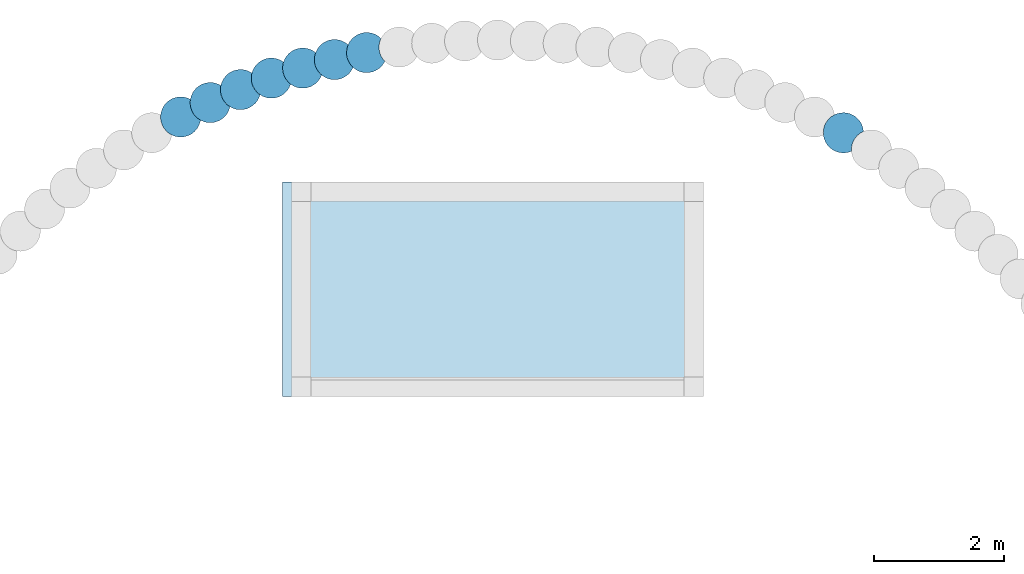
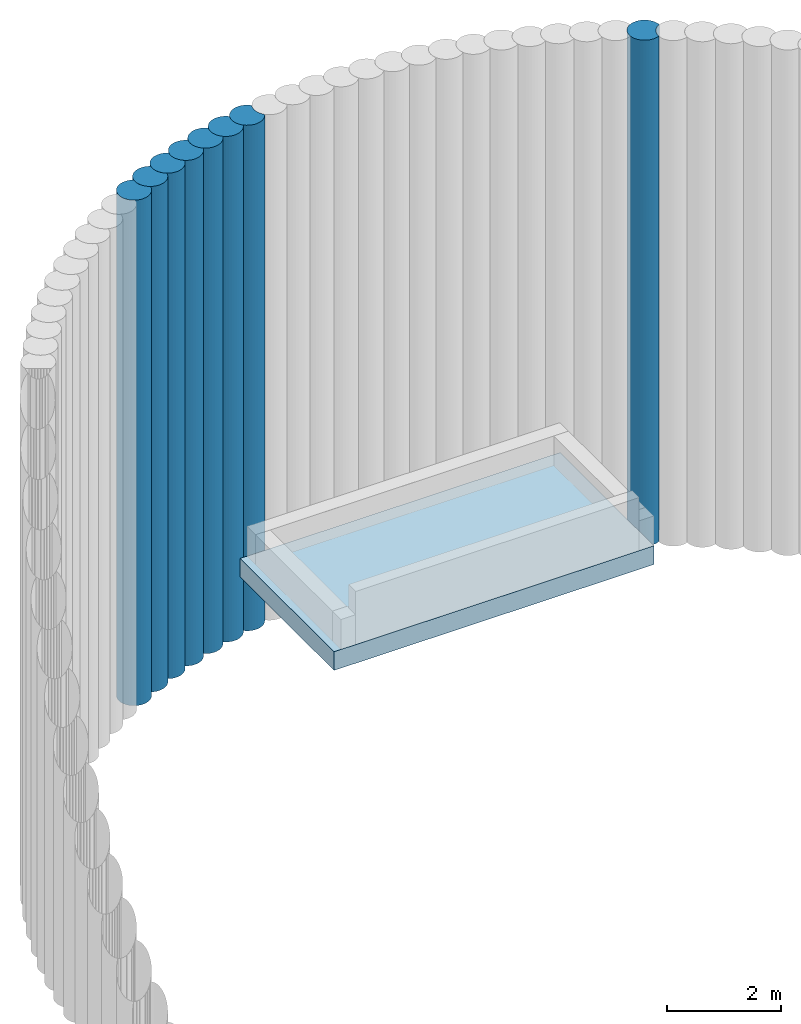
# One storey, part 12 of 16: 9 slabs.
"""IFC2X3 building model written with IfcOpenShell, lengths in centimetres."""

from ifc_helpers import new_model, entity, si_unit, converted_unit, derived_unit, direction, frame, frame_2d, origin, place, context, subcontext, project, spatial, polyline, circle_curve, parameter, trimmed, segment, composite_curve, rectangle, outline, extrude, material, layer, layer_set, layer_usage, element, save


model = new_model("IFC2X3")

# Units and contexts
model_context = context("Model", 3, precision=0.001, world=origin(), true_north=direction((6.12303176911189e-17, 1.0)))
body_context = subcontext(model_context, "Body", "Model", "MODEL_VIEW")
ifc_project = project(units=[si_unit("LENGTHUNIT", "METRE", prefix="CENTI"), si_unit("AREAUNIT", "SQUARE_METRE"), si_unit("VOLUMEUNIT", "CUBIC_METRE"), converted_unit("PLANEANGLEUNIT", "DEGREE", entity("IfcRatioMeasure", 0.0174532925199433), si_unit("PLANEANGLEUNIT", "RADIAN"), dimensions=[0, 0, 0, 0, 0, 0, 0]), si_unit("MASSUNIT", "GRAM", prefix="KILO"), derived_unit("MASSDENSITYUNIT", [(si_unit("MASSUNIT", "GRAM", prefix="KILO"), 1), (si_unit("LENGTHUNIT", "METRE"), -3)]), si_unit("TIMEUNIT", "SECOND"), si_unit("FREQUENCYUNIT", "HERTZ"), si_unit("THERMODYNAMICTEMPERATUREUNIT", "DEGREE_CELSIUS"), derived_unit("THERMALTRANSMITTANCEUNIT", [(si_unit("MASSUNIT", "GRAM", prefix="KILO"), 1), (si_unit("THERMODYNAMICTEMPERATUREUNIT", "KELVIN"), -1), (si_unit("TIMEUNIT", "SECOND"), -3)]), derived_unit("VOLUMETRICFLOWRATEUNIT", [(si_unit("LENGTHUNIT", "METRE"), 3), (si_unit("TIMEUNIT", "SECOND"), -1)]), si_unit("ELECTRICCURRENTUNIT", "AMPERE"), si_unit("ELECTRICVOLTAGEUNIT", "VOLT"), si_unit("POWERUNIT", "WATT"), si_unit("FORCEUNIT", "NEWTON", prefix="KILO"), si_unit("ILLUMINANCEUNIT", "LUX"), si_unit("LUMINOUSFLUXUNIT", "LUMEN"), si_unit("LUMINOUSINTENSITYUNIT", "CANDELA"), derived_unit("USERDEFINED", [(si_unit("MASSUNIT", "GRAM", prefix="KILO"), -1), (si_unit("LENGTHUNIT", "METRE"), -2), (si_unit("TIMEUNIT", "SECOND"), 3), (si_unit("LUMINOUSFLUXUNIT", "LUMEN"), 1)]), derived_unit("LINEARVELOCITYUNIT", [(si_unit("LENGTHUNIT", "METRE"), 1), (si_unit("TIMEUNIT", "SECOND"), -1)]), si_unit("PRESSUREUNIT", "PASCAL"), derived_unit("USERDEFINED", [(si_unit("LENGTHUNIT", "METRE"), -2), (si_unit("MASSUNIT", "GRAM", prefix="KILO"), 1), (si_unit("TIMEUNIT", "SECOND"), -2)])], contexts=[model_context])

# Site, building, storey
site_placement = place(None, origin())
site = spatial("IfcSite", under=ifc_project, at=site_placement, Name="Default", CompositionType="ELEMENT")
building_placement = place(site_placement, origin())
building = spatial("IfcBuilding", under=site, at=building_placement, CompositionType="ELEMENT")
storey_placement = place(building_placement, frame((0.0, 0.0, -984.0)))
storey = spatial("IfcBuildingStorey", under=building, at=storey_placement, Name="Niveau Fond de fosse", CompositionType="ELEMENT", Elevation=-984.000000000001)

# Slabs
ifc_material_1 = material(Name="Maçonnerie - Béton coulé sur place")
slab_1_placement = place(storey_placement, origin())
element("IfcSlab", 1, at=slab_1_placement, inside=storey, material=ifc_material_1, Name="Pieu béton - JBTP:600mm 2", ObjectType="Pieu béton - JBTP:600mm 2", PredefinedType="BASESLAB", context=body_context, shape_type="SweptSolid", body=[
    extrude(outline(composite_curve([segment(trimmed(circle_curve(frame_2d((1.18354648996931, -14.731866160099), x_axis=(1.0, 0.0)), 30.9999999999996), [parameter(180.0)], [parameter(207.444291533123)], True, "PARAMETER"), True, "CONTINUOUS"), segment(trimmed(circle_curve(frame_2d((-22.223663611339, -59.7464676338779), x_axis=(0.998867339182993, -0.0475819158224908)), 30.9999999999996), [parameter(30.1715642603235)], [parameter(100.334884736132)], True, "PARAMETER"), False, "CONTINUOUS"), segment(trimmed(circle_curve(frame_2d((1.18354648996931, -14.731866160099), x_axis=(1.0, 0.0)), 30.9999999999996), [parameter(277.607612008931)], [parameter(4.07110999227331e-13)], True, "PARAMETER"), True, "CONTINUOUS"), segment(polyline([(32.1835464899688, -14.731866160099), (31.7068413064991, -9.31628922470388)]), True, "CONTINUOUS"), segment(polyline([(31.7068413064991, -9.31628922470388), (30.2921459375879, -4.06934121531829)]), True, "CONTINUOUS"), segment(polyline([(30.2921459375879, -4.06934121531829), (27.9815446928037, 0.850722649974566)]), True, "CONTINUOUS"), segment(polyline([(27.9815446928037, 0.850722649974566), (24.8625540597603, 5.27574740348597)]), True, "CONTINUOUS"), segment(polyline([(24.8625540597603, 5.27574740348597), (21.0196407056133, 9.09100869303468)]), True, "CONTINUOUS"), segment(polyline([(21.0196407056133, 9.09100869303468), (16.5713553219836, 12.1793831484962)]), True, "CONTINUOUS"), segment(polyline([(16.5713553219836, 12.1793831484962), (11.6531207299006, 14.4466878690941)]), True, "CONTINUOUS"), segment(polyline([(11.6531207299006, 14.4466878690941), (6.41465294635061, 15.8235838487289)]), True, "CONTINUOUS"), segment(polyline([(6.41465294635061, 15.8235838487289), (1.01547753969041, 16.2676782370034)]), True, "CONTINUOUS"), segment(polyline([(1.01547753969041, 16.2676782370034), (-4.38028118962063, 15.7646561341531)]), True, "CONTINUOUS"), segment(polyline([(-4.38028118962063, 15.7646561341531), (-9.56967916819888, 14.3433490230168)]), True, "CONTINUOUS"), segment(polyline([(-9.56967916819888, 14.3433490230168), (-14.4353628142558, 12.0459170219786)]), True, "CONTINUOUS"), segment(polyline([(-14.4353628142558, 12.0459170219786), (-18.8300295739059, 8.94210209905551)]), True, "CONTINUOUS"), segment(polyline([(-18.8300295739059, 8.94210209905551), (-22.6217091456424, 5.12536940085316)]), True, "CONTINUOUS"), segment(polyline([(-22.6217091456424, 5.12536940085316), (-25.6964633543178, 0.710448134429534)]), True, "CONTINUOUS"), segment(polyline([(-25.6964633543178, 0.710448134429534), (-27.9617477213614, -4.17005640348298)]), True, "CONTINUOUS"), segment(polyline([(-27.9617477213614, -4.17005640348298), (-29.3490361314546, -9.36890070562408)]), True, "CONTINUOUS"), segment(polyline([(-29.3490361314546, -9.36890070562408), (-29.8164535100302, -14.7318661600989)]), True, "CONTINUOUS")], self_intersect=False)), frame((518.221782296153, 923.001581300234, -300.0), z_axis=(0.0, 0.0, 1.0), x_axis=(0.0678339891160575, 0.997696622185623, 0.0)), (0.0, 0.0, 1.0), 1084.0),
])
slab_2_placement = place(storey_placement, origin())
element("IfcSlab", 2, at=slab_2_placement, inside=storey, material=ifc_material_1, Name="Pieu béton - JBTP:600mm 2", ObjectType="Pieu béton - JBTP:600mm 2", PredefinedType="BASESLAB", context=body_context, shape_type="SweptSolid", body=[
    extrude(outline(composite_curve([segment(trimmed(circle_curve(frame_2d((1.18354648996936, -14.7318661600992), x_axis=(1.0, 0.0)), 30.9999999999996), [parameter(180.0)], [parameter(207.444291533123)], True, "PARAMETER"), True, "CONTINUOUS"), segment(trimmed(circle_curve(frame_2d((-22.2236636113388, -59.746467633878), x_axis=(0.998867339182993, -0.0475819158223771)), 30.9999999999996), [parameter(30.1715642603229)], [parameter(100.334884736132)], True, "PARAMETER"), False, "CONTINUOUS"), segment(trimmed(circle_curve(frame_2d((1.18354648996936, -14.7318661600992), x_axis=(1.0, 0.0)), 30.9999999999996), [parameter(277.607612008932)], [parameter(4.07110999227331e-13)], True, "PARAMETER"), True, "CONTINUOUS"), segment(polyline([(32.183546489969, -14.7318661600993), (31.7068413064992, -9.31628922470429)]), True, "CONTINUOUS"), segment(polyline([(31.7068413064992, -9.31628922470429), (30.2921459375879, -4.0693412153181)]), True, "CONTINUOUS"), segment(polyline([(30.2921459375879, -4.0693412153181), (27.9815446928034, 0.850722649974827)]), True, "CONTINUOUS"), segment(polyline([(27.9815446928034, 0.850722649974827), (24.8625540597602, 5.27574740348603)]), True, "CONTINUOUS"), segment(polyline([(24.8625540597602, 5.27574740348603), (21.0196407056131, 9.09100869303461)]), True, "CONTINUOUS"), segment(polyline([(21.0196407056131, 9.09100869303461), (16.5713553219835, 12.1793831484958)]), True, "CONTINUOUS"), segment(polyline([(16.5713553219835, 12.1793831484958), (11.6531207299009, 14.4466878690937)]), True, "CONTINUOUS"), segment(polyline([(11.6531207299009, 14.4466878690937), (6.41465294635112, 15.8235838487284)]), True, "CONTINUOUS"), segment(polyline([(6.41465294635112, 15.8235838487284), (1.01547753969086, 16.2676782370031)]), True, "CONTINUOUS"), segment(polyline([(1.01547753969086, 16.2676782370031), (-4.38028118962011, 15.764656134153)]), True, "CONTINUOUS"), segment(polyline([(-4.38028118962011, 15.764656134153), (-9.56967916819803, 14.3433490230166)]), True, "CONTINUOUS"), segment(polyline([(-9.56967916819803, 14.3433490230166), (-14.4353628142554, 12.0459170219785)]), True, "CONTINUOUS"), segment(polyline([(-14.4353628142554, 12.0459170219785), (-18.8300295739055, 8.94210209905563)]), True, "CONTINUOUS"), segment(polyline([(-18.8300295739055, 8.94210209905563), (-22.6217091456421, 5.12536940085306)]), True, "CONTINUOUS"), segment(polyline([(-22.6217091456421, 5.12536940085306), (-25.6964633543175, 0.710448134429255)]), True, "CONTINUOUS"), segment(polyline([(-25.6964633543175, 0.710448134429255), (-27.9617477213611, -4.1700564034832)]), True, "CONTINUOUS"), segment(polyline([(-27.9617477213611, -4.1700564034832), (-29.3490361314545, -9.36890070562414)]), True, "CONTINUOUS"), segment(polyline([(-29.3490361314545, -9.36890070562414), (-29.8164535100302, -14.7318661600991)]), True, "CONTINUOUS")], self_intersect=False)), frame((-212.791601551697, 1036.92114890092, -300.0), z_axis=(0.0, 0.0, 1.0), x_axis=(-0.602086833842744, 0.798430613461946, 0.0)), (0.0, 0.0, 1.0), 1084.0),
])
slab_3_placement = place(storey_placement, origin())
element("IfcSlab", 3, at=slab_3_placement, inside=storey, material=ifc_material_1, Name="Pieu béton - JBTP:600mm 2", ObjectType="Pieu béton - JBTP:600mm 2", PredefinedType="BASESLAB", context=body_context, shape_type="SweptSolid", body=[
    extrude(outline(composite_curve([segment(trimmed(circle_curve(frame_2d((1.18354648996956, -14.7318661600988), x_axis=(1.0, 0.0)), 30.9999999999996), [parameter(180.0)], [parameter(207.444291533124)], True, "PARAMETER"), True, "CONTINUOUS"), segment(trimmed(circle_curve(frame_2d((-22.2236636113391, -59.7464676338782), x_axis=(0.998867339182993, -0.047581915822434)), 30.9999999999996), [parameter(30.1715642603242)], [parameter(100.334884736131)], True, "PARAMETER"), False, "CONTINUOUS"), segment(trimmed(circle_curve(frame_2d((1.18354648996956, -14.7318661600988), x_axis=(1.0, 0.0)), 30.9999999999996), [parameter(277.60761200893)], [parameter(4.07110999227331e-13)], True, "PARAMETER"), True, "CONTINUOUS"), segment(polyline([(32.1835464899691, -14.7318661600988), (31.7068413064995, -9.31628922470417)]), True, "CONTINUOUS"), segment(polyline([(31.7068413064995, -9.31628922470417), (30.2921459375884, -4.06934121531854)]), True, "CONTINUOUS"), segment(polyline([(30.2921459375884, -4.06934121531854), (27.9815446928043, 0.850722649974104)]), True, "CONTINUOUS"), segment(polyline([(27.9815446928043, 0.850722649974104), (24.8625540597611, 5.27574740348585)]), True, "CONTINUOUS"), segment(polyline([(24.8625540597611, 5.27574740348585), (21.0196407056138, 9.09100869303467)]), True, "CONTINUOUS"), segment(polyline([(21.0196407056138, 9.09100869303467), (16.5713553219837, 12.1793831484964)]), True, "CONTINUOUS"), segment(polyline([(16.5713553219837, 12.1793831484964), (11.6531207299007, 14.4466878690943)]), True, "CONTINUOUS"), segment(polyline([(11.6531207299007, 14.4466878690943), (6.41465294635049, 15.8235838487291)]), True, "CONTINUOUS"), segment(polyline([(6.41465294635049, 15.8235838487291), (1.01547753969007, 16.2676782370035)]), True, "CONTINUOUS"), segment(polyline([(1.01547753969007, 16.2676782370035), (-4.38028118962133, 15.7646561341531)]), True, "CONTINUOUS"), segment(polyline([(-4.38028118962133, 15.7646561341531), (-9.56967916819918, 14.3433490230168)]), True, "CONTINUOUS"), segment(polyline([(-9.56967916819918, 14.3433490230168), (-14.4353628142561, 12.0459170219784)]), True, "CONTINUOUS"), segment(polyline([(-14.4353628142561, 12.0459170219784), (-18.830029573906, 8.94210209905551)]), True, "CONTINUOUS"), segment(polyline([(-18.830029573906, 8.94210209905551), (-22.6217091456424, 5.12536940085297)]), True, "CONTINUOUS"), segment(polyline([(-22.6217091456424, 5.12536940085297), (-25.6964633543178, 0.710448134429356)]), True, "CONTINUOUS"), segment(polyline([(-25.6964633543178, 0.710448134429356), (-27.9617477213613, -4.17005640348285)]), True, "CONTINUOUS"), segment(polyline([(-27.9617477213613, -4.17005640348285), (-29.3490361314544, -9.36890070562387)]), True, "CONTINUOUS"), segment(polyline([(-29.3490361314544, -9.36890070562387), (-29.81645351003, -14.7318661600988)]), True, "CONTINUOUS")], self_intersect=False)), frame((-261.889275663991, 1025.62163687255, -300.0), z_axis=(0.0, 0.0, 1.0), x_axis=(-0.63939573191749, 0.768877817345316, 0.0)), (0.0, 0.0, 1.0), 1084.0),
])
slab_4_placement = place(storey_placement, origin())
element("IfcSlab", 4, at=slab_4_placement, inside=storey, material=ifc_material_1, Name="Pieu béton - JBTP:600mm 2", ObjectType="Pieu béton - JBTP:600mm 2", PredefinedType="BASESLAB", context=body_context, shape_type="SweptSolid", body=[
    extrude(outline(composite_curve([segment(trimmed(circle_curve(frame_2d((1.18354648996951, -14.7318661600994), x_axis=(1.0, 0.0)), 30.9999999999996), [parameter(180.0)], [parameter(207.444291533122)], True, "PARAMETER"), True, "CONTINUOUS"), segment(trimmed(circle_curve(frame_2d((-22.2236636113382, -59.7464676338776), x_axis=(0.998867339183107, -0.047581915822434)), 30.9999999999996), [parameter(30.1715642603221)], [parameter(100.334884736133)], True, "PARAMETER"), False, "CONTINUOUS"), segment(trimmed(circle_curve(frame_2d((1.18354648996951, -14.7318661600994), x_axis=(1.0, 0.0)), 30.9999999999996), [parameter(277.607612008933)], [parameter(4.07110999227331e-13)], True, "PARAMETER"), True, "CONTINUOUS"), segment(polyline([(32.183546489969, -14.7318661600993), (31.7068413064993, -9.31628922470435)]), True, "CONTINUOUS"), segment(polyline([(31.7068413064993, -9.31628922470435), (30.292145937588, -4.06934121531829)]), True, "CONTINUOUS"), segment(polyline([(30.292145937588, -4.06934121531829), (27.9815446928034, 0.85072264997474)]), True, "CONTINUOUS"), segment(polyline([(27.9815446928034, 0.85072264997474), (24.8625540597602, 5.275747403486)]), True, "CONTINUOUS"), segment(polyline([(24.8625540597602, 5.275747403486), (21.0196407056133, 9.09100869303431)]), True, "CONTINUOUS"), segment(polyline([(21.0196407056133, 9.09100869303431), (16.5713553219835, 12.1793831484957)]), True, "CONTINUOUS"), segment(polyline([(16.5713553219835, 12.1793831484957), (11.653120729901, 14.4466878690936)]), True, "CONTINUOUS"), segment(polyline([(11.653120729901, 14.4466878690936), (6.41465294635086, 15.8235838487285)]), True, "CONTINUOUS"), segment(polyline([(6.41465294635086, 15.8235838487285), (1.01547753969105, 16.267678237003)]), True, "CONTINUOUS"), segment(polyline([(1.01547753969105, 16.267678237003), (-4.38028118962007, 15.7646561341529)]), True, "CONTINUOUS"), segment(polyline([(-4.38028118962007, 15.7646561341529), (-9.56967916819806, 14.3433490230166)]), True, "CONTINUOUS"), segment(polyline([(-9.56967916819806, 14.3433490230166), (-14.4353628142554, 12.0459170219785)]), True, "CONTINUOUS"), segment(polyline([(-14.4353628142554, 12.0459170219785), (-18.8300295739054, 8.9421020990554)]), True, "CONTINUOUS"), segment(polyline([(-18.8300295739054, 8.9421020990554), (-22.621709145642, 5.12536940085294)]), True, "CONTINUOUS"), segment(polyline([(-22.621709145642, 5.12536940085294), (-25.6964633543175, 0.710448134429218)]), True, "CONTINUOUS"), segment(polyline([(-25.6964633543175, 0.710448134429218), (-27.9617477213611, -4.17005640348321)]), True, "CONTINUOUS"), segment(polyline([(-27.9617477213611, -4.17005640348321), (-29.3490361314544, -9.36890070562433)]), True, "CONTINUOUS"), segment(polyline([(-29.3490361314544, -9.36890070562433), (-29.8164535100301, -14.7318661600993)]), True, "CONTINUOUS")], self_intersect=False)), frame((-310.393686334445, 1011.99876196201, -300.0), z_axis=(0.0, 0.0, 1.0), x_axis=(-0.675256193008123, 0.737583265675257, 0.0)), (0.0, 0.0, 1.0), 1084.0),
])
slab_5_placement = place(storey_placement, origin())
element("IfcSlab", 5, at=slab_5_placement, inside=storey, material=ifc_material_1, Name="Pieu béton - JBTP:600mm 2", ObjectType="Pieu béton - JBTP:600mm 2", PredefinedType="BASESLAB", context=body_context, shape_type="SweptSolid", body=[
    extrude(outline(composite_curve([segment(trimmed(circle_curve(frame_2d((1.18354648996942, -14.7318661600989), x_axis=(1.0, 0.0)), 30.9999999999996), [parameter(180.0)], [parameter(207.444291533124)], True, "PARAMETER"), True, "CONTINUOUS"), segment(trimmed(circle_curve(frame_2d((-22.2236636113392, -59.7464676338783), x_axis=(0.998867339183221, -0.047581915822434)), 30.9999999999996), [parameter(30.1715642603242)], [parameter(100.334884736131)], True, "PARAMETER"), False, "CONTINUOUS"), segment(trimmed(circle_curve(frame_2d((1.18354648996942, -14.7318661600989), x_axis=(1.0, 0.0)), 30.9999999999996), [parameter(277.60761200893)], [parameter(4.07110999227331e-13)], True, "PARAMETER"), True, "CONTINUOUS"), segment(polyline([(32.183546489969, -14.7318661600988), (31.7068413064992, -9.31628922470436)]), True, "CONTINUOUS"), segment(polyline([(31.7068413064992, -9.31628922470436), (30.2921459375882, -4.0693412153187)]), True, "CONTINUOUS"), segment(polyline([(30.2921459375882, -4.0693412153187), (27.9815446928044, 0.850722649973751)]), True, "CONTINUOUS"), segment(polyline([(27.9815446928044, 0.850722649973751), (24.8625540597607, 5.27574740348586)]), True, "CONTINUOUS"), segment(polyline([(24.8625540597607, 5.27574740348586), (21.0196407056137, 9.09100869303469)]), True, "CONTINUOUS"), segment(polyline([(21.0196407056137, 9.09100869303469), (16.5713553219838, 12.1793831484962)]), True, "CONTINUOUS"), segment(polyline([(16.5713553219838, 12.1793831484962), (11.6531207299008, 14.4466878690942)]), True, "CONTINUOUS"), segment(polyline([(11.6531207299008, 14.4466878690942), (6.41465294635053, 15.823583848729)]), True, "CONTINUOUS"), segment(polyline([(6.41465294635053, 15.823583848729), (1.01547753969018, 16.2676782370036)]), True, "CONTINUOUS"), segment(polyline([(1.01547753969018, 16.2676782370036), (-4.38028118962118, 15.7646561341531)]), True, "CONTINUOUS"), segment(polyline([(-4.38028118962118, 15.7646561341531), (-9.56967916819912, 14.3433490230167)]), True, "CONTINUOUS"), segment(polyline([(-9.56967916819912, 14.3433490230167), (-14.4353628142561, 12.0459170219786)]), True, "CONTINUOUS"), segment(polyline([(-14.4353628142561, 12.0459170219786), (-18.8300295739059, 8.94210209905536)]), True, "CONTINUOUS"), segment(polyline([(-18.8300295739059, 8.94210209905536), (-22.6217091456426, 5.1253694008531)]), True, "CONTINUOUS"), segment(polyline([(-22.6217091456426, 5.1253694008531), (-25.6964633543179, 0.710448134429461)]), True, "CONTINUOUS"), segment(polyline([(-25.6964633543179, 0.710448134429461), (-27.9617477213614, -4.17005640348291)]), True, "CONTINUOUS"), segment(polyline([(-27.9617477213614, -4.17005640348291), (-29.3490361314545, -9.36890070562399)]), True, "CONTINUOUS"), segment(polyline([(-29.3490361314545, -9.36890070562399), (-29.8164535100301, -14.7318661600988)]), True, "CONTINUOUS")], self_intersect=False)), frame((-358.194955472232, 996.083384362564, -300.0), z_axis=(0.0, 0.0, 1.0), x_axis=(-0.709586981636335, 0.704617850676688, 0.0)), (0.0, 0.0, 1.0), 1084.0),
])
slab_6_placement = place(storey_placement, origin())
element("IfcSlab", 6, at=slab_6_placement, inside=storey, material=ifc_material_1, Name="Pieu béton - JBTP:600mm 2", ObjectType="Pieu béton - JBTP:600mm 2", PredefinedType="BASESLAB", context=body_context, shape_type="SweptSolid", body=[
    extrude(outline(composite_curve([segment(trimmed(circle_curve(frame_2d((1.18354648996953, -14.7318661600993), x_axis=(1.0, 0.0)), 30.9999999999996), [parameter(180.0)], [parameter(207.444291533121)], True, "PARAMETER"), True, "CONTINUOUS"), segment(trimmed(circle_curve(frame_2d((-22.2236636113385, -59.7464676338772), x_axis=(0.99886733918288, -0.0475819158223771)), 30.9999999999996), [parameter(30.1715642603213)], [parameter(100.334884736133)], True, "PARAMETER"), False, "CONTINUOUS"), segment(trimmed(circle_curve(frame_2d((1.18354648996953, -14.7318661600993), x_axis=(1.0, 0.0)), 30.9999999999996), [parameter(277.607612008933)], [parameter(4.07110999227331e-13)], True, "PARAMETER"), True, "CONTINUOUS"), segment(polyline([(32.1835464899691, -14.7318661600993), (31.7068413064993, -9.31628922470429)]), True, "CONTINUOUS"), segment(polyline([(31.7068413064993, -9.31628922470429), (30.2921459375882, -4.06934121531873)]), True, "CONTINUOUS"), segment(polyline([(30.2921459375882, -4.06934121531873), (27.9815446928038, 0.85072264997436)]), True, "CONTINUOUS"), segment(polyline([(27.9815446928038, 0.85072264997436), (24.8625540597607, 5.27574740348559)]), True, "CONTINUOUS"), segment(polyline([(24.8625540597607, 5.27574740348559), (21.0196407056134, 9.09100869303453)]), True, "CONTINUOUS"), segment(polyline([(21.0196407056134, 9.09100869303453), (16.5713553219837, 12.1793831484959)]), True, "CONTINUOUS"), segment(polyline([(16.5713553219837, 12.1793831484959), (11.6531207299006, 14.4466878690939)]), True, "CONTINUOUS"), segment(polyline([(11.6531207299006, 14.4466878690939), (6.41465294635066, 15.8235838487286)]), True, "CONTINUOUS"), segment(polyline([(6.41465294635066, 15.8235838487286), (1.01547753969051, 16.2676782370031)]), True, "CONTINUOUS"), segment(polyline([(1.01547753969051, 16.2676782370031), (-4.38028118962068, 15.7646561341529)]), True, "CONTINUOUS"), segment(polyline([(-4.38028118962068, 15.7646561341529), (-9.56967916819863, 14.3433490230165)]), True, "CONTINUOUS"), segment(polyline([(-9.56967916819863, 14.3433490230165), (-14.4353628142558, 12.0459170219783)]), True, "CONTINUOUS"), segment(polyline([(-14.4353628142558, 12.0459170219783), (-18.8300295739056, 8.94210209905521)]), True, "CONTINUOUS"), segment(polyline([(-18.8300295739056, 8.94210209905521), (-22.6217091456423, 5.1253694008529)]), True, "CONTINUOUS"), segment(polyline([(-22.6217091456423, 5.1253694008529), (-25.6964633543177, 0.710448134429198)]), True, "CONTINUOUS"), segment(polyline([(-25.6964633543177, 0.710448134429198), (-27.9617477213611, -4.17005640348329)]), True, "CONTINUOUS"), segment(polyline([(-27.9617477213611, -4.17005640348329), (-29.3490361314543, -9.36890070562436)]), True, "CONTINUOUS"), segment(polyline([(-29.3490361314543, -9.36890070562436), (-29.81645351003, -14.7318661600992)]), True, "CONTINUOUS")], self_intersect=False)), frame((-405.184797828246, 977.911557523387, -300.0), z_axis=(0.0, 0.0, 1.0), x_axis=(-0.742310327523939, 0.670056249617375, 0.0)), (0.0, 0.0, 1.0), 1084.0),
])
slab_7_placement = place(storey_placement, origin())
element("IfcSlab", 7, at=slab_7_placement, inside=storey, material=ifc_material_1, Name="Pieu béton - JBTP:600mm 2", ObjectType="Pieu béton - JBTP:600mm 2", PredefinedType="BASESLAB", context=body_context, shape_type="SweptSolid", body=[
    extrude(outline(composite_curve([segment(trimmed(circle_curve(frame_2d((1.18354648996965, -14.7318661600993), x_axis=(1.0, 0.0)), 30.9999999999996), [parameter(180.0)], [parameter(207.444291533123)], True, "PARAMETER"), True, "CONTINUOUS"), segment(trimmed(circle_curve(frame_2d((-22.2236636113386, -59.746467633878), x_axis=(0.998867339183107, -0.047581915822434)), 30.9999999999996), [parameter(30.1715642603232)], [parameter(100.334884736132)], True, "PARAMETER"), False, "CONTINUOUS"), segment(trimmed(circle_curve(frame_2d((1.18354648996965, -14.7318661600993), x_axis=(1.0, 0.0)), 30.9999999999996), [parameter(277.607612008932)], [parameter(4.07110999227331e-13)], True, "PARAMETER"), True, "CONTINUOUS"), segment(polyline([(32.1835464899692, -14.7318661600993), (31.7068413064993, -9.31628922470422)]), True, "CONTINUOUS"), segment(polyline([(31.7068413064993, -9.31628922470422), (30.292145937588, -4.0693412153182)]), True, "CONTINUOUS"), segment(polyline([(30.292145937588, -4.0693412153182), (27.9815446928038, 0.850722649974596)]), True, "CONTINUOUS"), segment(polyline([(27.9815446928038, 0.850722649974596), (24.8625540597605, 5.27574740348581)]), True, "CONTINUOUS"), segment(polyline([(24.8625540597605, 5.27574740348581), (21.0196407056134, 9.09100869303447)]), True, "CONTINUOUS"), segment(polyline([(21.0196407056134, 9.09100869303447), (16.5713553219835, 12.1793831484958)]), True, "CONTINUOUS"), segment(polyline([(16.5713553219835, 12.1793831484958), (11.6531207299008, 14.4466878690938)]), True, "CONTINUOUS"), segment(polyline([(11.6531207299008, 14.4466878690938), (6.41465294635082, 15.8235838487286)]), True, "CONTINUOUS"), segment(polyline([(6.41465294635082, 15.8235838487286), (1.01547753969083, 16.2676782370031)]), True, "CONTINUOUS"), segment(polyline([(1.01547753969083, 16.2676782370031), (-4.38028118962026, 15.7646561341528)]), True, "CONTINUOUS"), segment(polyline([(-4.38028118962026, 15.7646561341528), (-9.56967916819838, 14.3433490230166)]), True, "CONTINUOUS"), segment(polyline([(-9.56967916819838, 14.3433490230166), (-14.4353628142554, 12.0459170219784)]), True, "CONTINUOUS"), segment(polyline([(-14.4353628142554, 12.0459170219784), (-18.8300295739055, 8.94210209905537)]), True, "CONTINUOUS"), segment(polyline([(-18.8300295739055, 8.94210209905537), (-22.6217091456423, 5.12536940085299)]), True, "CONTINUOUS"), segment(polyline([(-22.6217091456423, 5.12536940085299), (-25.6964633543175, 0.710448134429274)]), True, "CONTINUOUS"), segment(polyline([(-25.6964633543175, 0.710448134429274), (-27.9617477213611, -4.17005640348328)]), True, "CONTINUOUS"), segment(polyline([(-27.9617477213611, -4.17005640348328), (-29.3490361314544, -9.36890070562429)]), True, "CONTINUOUS"), segment(polyline([(-29.3490361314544, -9.36890070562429), (-29.81645351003, -14.7318661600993)]), True, "CONTINUOUS")], self_intersect=False)), frame((-451.256766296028, 957.524446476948, -300.0), z_axis=(0.0, 0.0, 1.0), x_axis=(-0.773352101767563, 0.633976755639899, 0.0)), (0.0, 0.0, 1.0), 1084.0),
])
slab_8_placement = place(storey_placement, origin())
element("IfcSlab", 8, at=slab_8_placement, inside=storey, material=ifc_material_1, Name="Pieu béton - JBTP:600mm 2", ObjectType="Pieu béton - JBTP:600mm 2", PredefinedType="BASESLAB", context=body_context, shape_type="SweptSolid", body=[
    extrude(outline(composite_curve([segment(trimmed(circle_curve(frame_2d((1.18354648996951, -14.7318661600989), x_axis=(1.0, 0.0)), 30.9999999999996), [parameter(180.0)], [parameter(207.444291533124)], True, "PARAMETER"), True, "CONTINUOUS"), segment(trimmed(circle_curve(frame_2d((-22.2236636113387, -59.7464676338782), x_axis=(0.998867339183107, -0.047581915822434)), 30.9999999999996), [parameter(30.171564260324)], [parameter(100.334884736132)], True, "PARAMETER"), False, "CONTINUOUS"), segment(trimmed(circle_curve(frame_2d((1.18354648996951, -14.7318661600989), x_axis=(1.0, 0.0)), 30.9999999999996), [parameter(277.607612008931)], [parameter(4.07110999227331e-13)], True, "PARAMETER"), True, "CONTINUOUS"), segment(polyline([(32.183546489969, -14.7318661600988), (31.7068413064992, -9.31628922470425)]), True, "CONTINUOUS"), segment(polyline([(31.7068413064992, -9.31628922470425), (30.2921459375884, -4.06934121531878)]), True, "CONTINUOUS"), segment(polyline([(30.2921459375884, -4.06934121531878), (27.9815446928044, 0.850722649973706)]), True, "CONTINUOUS"), segment(polyline([(27.9815446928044, 0.850722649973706), (24.8625540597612, 5.27574740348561)]), True, "CONTINUOUS"), segment(polyline([(24.8625540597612, 5.27574740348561), (21.0196407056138, 9.09100869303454)]), True, "CONTINUOUS"), segment(polyline([(21.0196407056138, 9.09100869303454), (16.5713553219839, 12.1793831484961)]), True, "CONTINUOUS"), segment(polyline([(16.5713553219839, 12.1793831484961), (11.6531207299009, 14.4466878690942)]), True, "CONTINUOUS"), segment(polyline([(11.6531207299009, 14.4466878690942), (6.41465294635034, 15.8235838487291)]), True, "CONTINUOUS"), segment(polyline([(6.41465294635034, 15.8235838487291), (1.01547753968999, 16.2676782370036)]), True, "CONTINUOUS"), segment(polyline([(1.01547753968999, 16.2676782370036), (-4.38028118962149, 15.7646561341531)]), True, "CONTINUOUS"), segment(polyline([(-4.38028118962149, 15.7646561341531), (-9.56967916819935, 14.3433490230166)]), True, "CONTINUOUS"), segment(polyline([(-9.56967916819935, 14.3433490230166), (-14.4353628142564, 12.0459170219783)]), True, "CONTINUOUS"), segment(polyline([(-14.4353628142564, 12.0459170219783), (-18.8300295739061, 8.94210209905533)]), True, "CONTINUOUS"), segment(polyline([(-18.8300295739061, 8.94210209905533), (-22.6217091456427, 5.12536940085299)]), True, "CONTINUOUS"), segment(polyline([(-22.6217091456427, 5.12536940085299), (-25.6964633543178, 0.710448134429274)]), True, "CONTINUOUS"), segment(polyline([(-25.6964633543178, 0.710448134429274), (-27.9617477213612, -4.17005640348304)]), True, "CONTINUOUS"), segment(polyline([(-27.9617477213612, -4.17005640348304), (-29.3490361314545, -9.36890070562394)]), True, "CONTINUOUS"), segment(polyline([(-29.3490361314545, -9.36890070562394), (-29.81645351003, -14.7318661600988)]), True, "CONTINUOUS")], self_intersect=False)), frame((-496.306493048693, 934.968234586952, -300.0), z_axis=(0.0, 0.0, 1.0), x_axis=(-0.80264198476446, 0.596461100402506, 0.0)), (0.0, 0.0, 1.0), 1084.0),
])
ifc_material_2 = material(Name="Béton, coulé sur place")
ifc_layer = layer(ifc_material_2, 40.0)
ifc_layer_set = layer_set([ifc_layer], Name="Radier:Radier 400mm - JBTP")
ifc_layer_usage = layer_usage(ifc_layer_set, "AXIS3", "POSITIVE", 0.0)
slab_9_placement = place(storey_placement, origin())
element("IfcSlab", 9, at=slab_9_placement, inside=storey, material=ifc_layer_usage, Name="Radier:Radier 400mm - JBTP", ObjectType="Radier:Radier 400mm - JBTP", PredefinedType="BASESLAB", context=body_context, shape_type="SweptSolid", body=[
    extrude(rectangle(XDim=329.999999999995, YDim=648.780094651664, at=frame_2d((5.6843418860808e-14, 1.4210854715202e-13), x_axis=(1.0, 0.0))), frame((-6.89004732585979, 682.0, 0.0), z_axis=(0.0, 0.0, -1.0), x_axis=(0.0, 1.0, 0.0)), (0.0, 0.0, 1.0), 40.0),
])

save(model, "model.ifc")
